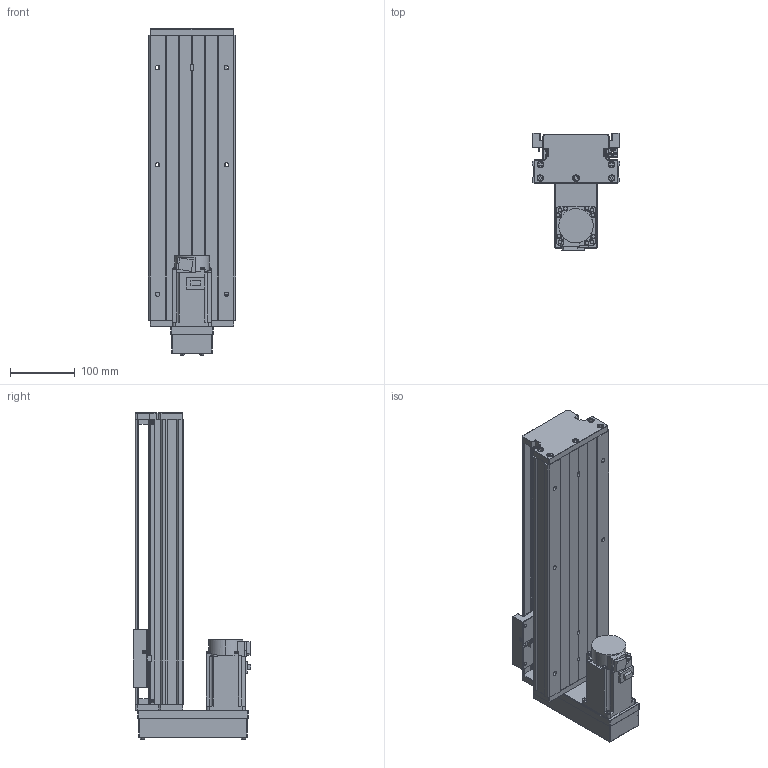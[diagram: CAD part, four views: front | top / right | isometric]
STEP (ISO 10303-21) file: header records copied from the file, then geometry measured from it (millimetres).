
FILE_DESCRIPTION (( 'STEP AP203' ), '1' );
FILE_NAME ('KTH130-300-BM-M40-C4.step', '2023-06-30T04:04:07', ( '微软用户' ), ( '微软中国' ), 'SwSTEP 2.0', 'SolidWorks 2020', '' );
FILE_SCHEMA (( 'CONFIG_CONTROL_DESIGN' ));
Length unit declared in the file: millimetre
Products named in the file (19): GBT 70.2-M4¡Á35_M4¡Á35; CTHA60-016; GTH14-015-2_CTHA86-015-2; GBT 70.1-M3℅5; GTH14-033; GB1155-6X6; GBT77-2000 M3×3; KTH130-300-BM-M40-C4; GTH14-001_300; GBT70.1 M5℅16; す晦芛蹟隊 M3℅5; KTH130-002_KTH130-002; GBT 70.2-M3¡Á5_M3¡Á6; GBT 70.3-M3℅8; KTH130-004; CTHA60-017; HG-KN43J-S100; KTH130-005; EE_SX911P_R
Assembly tree (53 placements, depth 2):
  KTH130-300-BM-M40-C4
    GTH14-001_300
    KTH130-002_KTH130-002
    KTH130-004
    KTH130-005
    GB1155-6X6  x2
    GBT70.1 M5℅16  x10
    GBT 70.2-M3¡Á5_M3¡Á6  x4
    CTHA60-017  x3
    EE_SX911P_R  x3
    CTHA60-016  x2
    GBT 70.1-M3℅5  x6
    GBT77-2000 M3×3  x6
    す晦芛蹟隊 M3℅5  x2
    GBT 70.3-M3℅8  x4
    HG-KN43J-S100
    GBT 70.2-M4¡Á35_M4¡Á35  x4
    GTH14-015-2_CTHA86-015-2
    GTH14-033
Bounding box: 135 x 181.8 x 504.2 mm (x, y, z)
Volume: 3108381.2 mm3; surface area: 548874 mm2
Topology: 56 solids, 56 shells, 2203 faces, 5318 edges, 3310 vertices
Faces by surface type: plane 1193, cylinder 596, cone 290, torus 100, sphere 24
Entity records: 39942 total; most frequent: CARTESIAN_POINT 8534, DIRECTION 5919, ORIENTED_EDGE 5836, EDGE_CURVE 2918, AXIS2_PLACEMENT_3D 2026, LINE 1867, VECTOR 1867, VERTEX_POINT 1863
